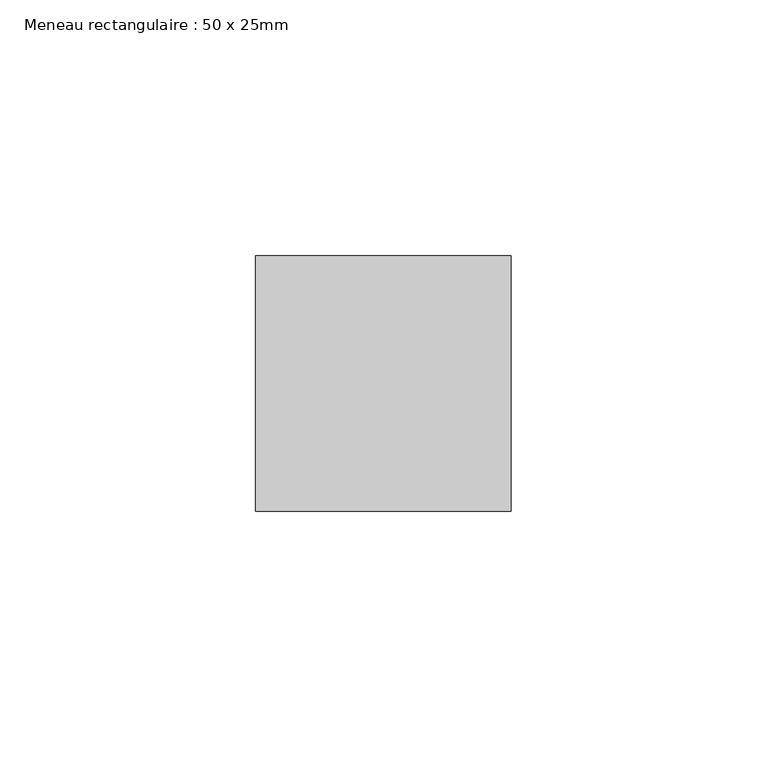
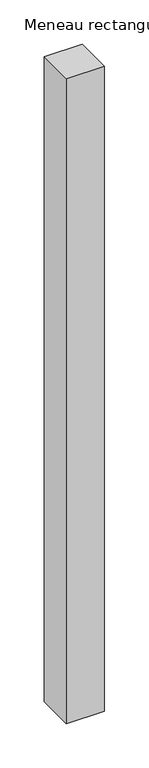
"""IFC4 building model written with IfcOpenShell, lengths in millimetres: member geometry, Meneau rectangulaire : 50 x 25mm."""

from ifc_helpers import new_model, si_unit, frame, origin, place, context, project, spatial, polyline, outline, extrude, source, transform, mapped, element, save


def meneau_rectangulaire_50_x_25mm_53811e01(model_context):
    return source(origin(), model_context, "Body", "SweptSolid", [
        extrude(outline(polyline([(0.0, 0.0), (0.0, -50.0), (-50.0, -50.0), (-50.0, 0.0), (0.0, 0.0)])), frame((0.0, 0.0, -892.0), z_axis=(0.0, 0.0, 1.0), x_axis=(1.0, 0.0, 0.0)), (0.0, 0.0, 1.0), 892.0),
    ])


if __name__ == "__main__":
    model = new_model("IFC4")
    model_context = context("Model", 3, world=origin())
    ifc_project = project(units=[si_unit("LENGTHUNIT", "METRE", prefix="MILLI")], contexts=[model_context])
    site = spatial("IfcSite", under=ifc_project)
    building = spatial("IfcBuilding", under=site)
    placement = place(None, origin())
    meneau_rectangulaire_50_x_25mm_shape = meneau_rectangulaire_50_x_25mm_53811e01(model_context)
    element("IfcMember", 1, ObjectType="Meneau rectangulaire : 50 x 25mm", at=placement, inside=building, context=model_context, shape_type="MappedRepresentation", body=[
        mapped(meneau_rectangulaire_50_x_25mm_shape, transform((0.0, 0.0, 0.0), x_axis=(1.0, 0.0, 0.0), y_axis=(0.0, 1.0, 0.0), z_axis=(0.0, 0.0, 1.0))),
    ])
    save(model, "model.ifc")
